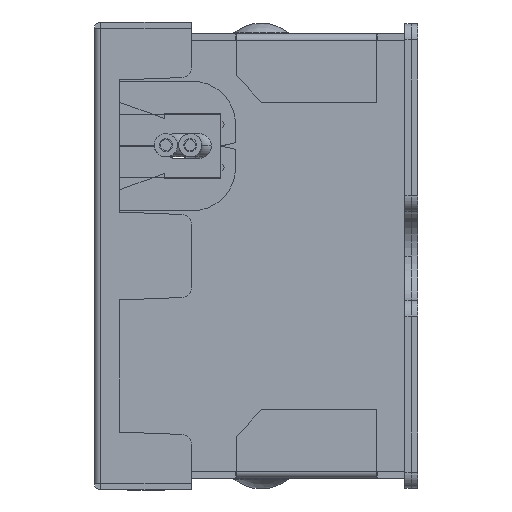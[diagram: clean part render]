
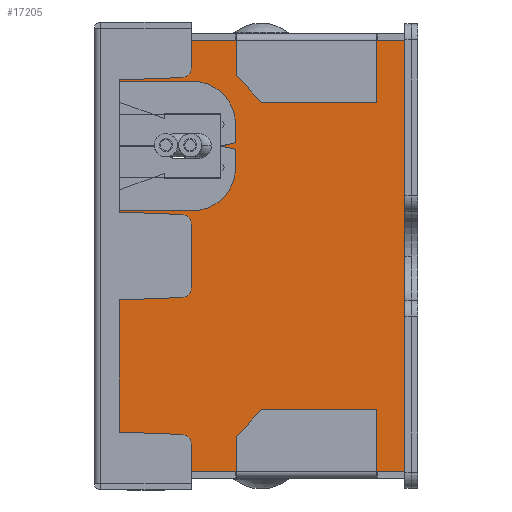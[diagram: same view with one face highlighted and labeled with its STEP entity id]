
A CAD part, left-side view. The second image highlights one B-rep face of the part: STEP entity #17205.
In plain terms, the highlighted planar face has unit normal (-1, 0, 0) as drawn and (0, 0, 1) by its records, which use the part's own axes.
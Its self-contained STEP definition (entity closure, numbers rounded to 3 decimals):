
#46 = ORIENTED_EDGE ( 'NONE', *, *, #17590, .T. ) ;
#129 = CARTESIAN_POINT ( 'NONE',  ( 13.25, 3.15, 0.6 ) ) ;
#232 = VERTEX_POINT ( 'NONE', #11225 ) ;
#500 = CARTESIAN_POINT ( 'NONE',  ( -20., 13.9, 0.6 ) ) ;
#555 = CARTESIAN_POINT ( 'NONE',  ( -20., 8.4, 0.6 ) ) ;
#981 = DIRECTION ( 'NONE',  ( 0., 1., 0. ) ) ;
#1043 = CARTESIAN_POINT ( 'NONE',  ( -20., 13.9, 0.6 ) ) ;
#1109 = DIRECTION ( 'NONE',  ( 1., 0., 0. ) ) ;
#1242 = EDGE_CURVE ( 'NONE', #5543, #232, #15643, .T. ) ;
#2249 = VERTEX_POINT ( 'NONE', #7799 ) ;
#2369 = EDGE_CURVE ( 'NONE', #6762, #15968, #3909, .T. ) ;
#2485 = EDGE_CURVE ( 'NONE', #15968, #12574, #9845, .T. ) ;
#2486 = ORIENTED_EDGE ( 'NONE', *, *, #10905, .T. ) ;
#2586 = CARTESIAN_POINT ( 'NONE',  ( -20., -13.9, 0.6 ) ) ;
#2604 = ORIENTED_EDGE ( 'NONE', *, *, #3429, .T. ) ;
#2654 = ORIENTED_EDGE ( 'NONE', *, *, #2369, .T. ) ;
#2867 = DIRECTION ( 'NONE',  ( -1., 0., 0. ) ) ;
#2881 = EDGE_CURVE ( 'NONE', #16415, #5543, #5414, .T. ) ;
#2928 = VERTEX_POINT ( 'NONE', #16192 ) ;
#3429 = EDGE_CURVE ( 'NONE', #2928, #11017, #5630, .T. ) ;
#3457 = DIRECTION ( 'NONE',  ( 1., 0., 0. ) ) ;
#3617 = AXIS2_PLACEMENT_3D ( 'NONE', #10995, #16586, #1109 ) ;
#3793 = CARTESIAN_POINT ( 'NONE',  ( 4.598, 13.9, 0.6 ) ) ;
#3909 = CIRCLE ( 'NONE', #3617, 1.5 ) ;
#4358 = ORIENTED_EDGE ( 'NONE', *, *, #7977, .T. ) ;
#4853 = FACE_OUTER_BOUND ( 'NONE', #6237, .T. ) ;
#5084 = VECTOR ( 'NONE', #7776, 1000. ) ;
#5104 = PLANE ( 'NONE',  #6616 ) ;
#5239 = VECTOR ( 'NONE', #981, 1000. ) ;
#5302 = VECTOR ( 'NONE', #13365, 1000. ) ;
#5414 = CIRCLE ( 'NONE', #11763, 1.5 ) ;
#5429 = DIRECTION ( 'NONE',  ( -1., 0., 0. ) ) ;
#5489 = ORIENTED_EDGE ( 'NONE', *, *, #2881, .T. ) ;
#5543 = VERTEX_POINT ( 'NONE', #7845 ) ;
#5630 = LINE ( 'NONE', #14553, #8492 ) ;
#5919 = ORIENTED_EDGE ( 'NONE', *, *, #7323, .T. ) ;
#6017 = CARTESIAN_POINT ( 'NONE',  ( -20., 13.9, 0.6 ) ) ;
#6237 = EDGE_LOOP ( 'NONE', ( #12770, #5489, #6319, #8241, #2604, #2486, #4358, #46, #10582, #2654, #11084, #10202, #5919, #13911 ) ) ;
#6274 = DIRECTION ( 'NONE',  ( 0., -1., 0. ) ) ;
#6319 = ORIENTED_EDGE ( 'NONE', *, *, #1242, .T. ) ;
#6367 = VERTEX_POINT ( 'NONE', #11868 ) ;
#6492 = EDGE_CURVE ( 'NONE', #6367, #16415, #14183, .T. ) ;
#6601 = LINE ( 'NONE', #6611, #13676 ) ;
#6611 = CARTESIAN_POINT ( 'NONE',  ( 11.583, -2.405, 0.6 ) ) ;
#6616 = AXIS2_PLACEMENT_3D ( 'NONE', #14886, #16294, #6882 ) ;
#6710 = EDGE_CURVE ( 'NONE', #232, #2928, #6850, .T. ) ;
#6762 = VERTEX_POINT ( 'NONE', #17755 ) ;
#6819 = LINE ( 'NONE', #8794, #13233 ) ;
#6850 = LINE ( 'NONE', #555, #5302 ) ;
#6882 = DIRECTION ( 'NONE',  ( 1., 0., 0. ) ) ;
#6960 = CARTESIAN_POINT ( 'NONE',  ( 1.752, -21.817, 0.6 ) ) ;
#7323 = EDGE_CURVE ( 'NONE', #17318, #8099, #16372, .T. ) ;
#7491 = CARTESIAN_POINT ( 'NONE',  ( -20., 8.4, 0.6 ) ) ;
#7760 = VECTOR ( 'NONE', #12866, 1000. ) ;
#7776 = DIRECTION ( 'NONE',  ( 1., 0., 0. ) ) ;
#7799 = CARTESIAN_POINT ( 'NONE',  ( 7.65, 8.4, 0.6 ) ) ;
#7845 = CARTESIAN_POINT ( 'NONE',  ( 14.393, 12.913, 0.6 ) ) ;
#7894 = DIRECTION ( 'NONE',  ( -0.342, 0.94, 0. ) ) ;
#7977 = EDGE_CURVE ( 'NONE', #15218, #9995, #6819, .T. ) ;
#8099 = VERTEX_POINT ( 'NONE', #12064 ) ;
#8241 = ORIENTED_EDGE ( 'NONE', *, *, #6710, .T. ) ;
#8280 = LINE ( 'NONE', #16836, #11594 ) ;
#8304 = LINE ( 'NONE', #6017, #9179 ) ;
#8492 = VECTOR ( 'NONE', #6274, 1000. ) ;
#8794 = CARTESIAN_POINT ( 'NONE',  ( 7.15, -13.9, 0.6 ) ) ;
#9179 = VECTOR ( 'NONE', #10313, 1000. ) ;
#9366 = EDGE_CURVE ( 'NONE', #2249, #6762, #6601, .T. ) ;
#9433 = VECTOR ( 'NONE', #16873, 1000. ) ;
#9751 = CARTESIAN_POINT ( 'NONE',  ( -20., 13.9, 0.6 ) ) ;
#9845 = LINE ( 'NONE', #9751, #14299 ) ;
#9995 = VERTEX_POINT ( 'NONE', #15148 ) ;
#10124 = VECTOR ( 'NONE', #10141, 1000. ) ;
#10141 = DIRECTION ( 'NONE',  ( 1., 0., 0. ) ) ;
#10202 = ORIENTED_EDGE ( 'NONE', *, *, #15344, .T. ) ;
#10313 = DIRECTION ( 'NONE',  ( 0., -1., 0. ) ) ;
#10344 = DIRECTION ( 'NONE',  ( 0., 1., 0. ) ) ;
#10444 = CARTESIAN_POINT ( 'NONE',  ( 15.802, 13.9, 0.6 ) ) ;
#10582 = ORIENTED_EDGE ( 'NONE', *, *, #9366, .T. ) ;
#10618 = DIRECTION ( 'NONE',  ( 0., 0., 1. ) ) ;
#10775 = LINE ( 'NONE', #16391, #5239 ) ;
#10905 = EDGE_CURVE ( 'NONE', #11017, #15218, #8280, .T. ) ;
#10995 = CARTESIAN_POINT ( 'NONE',  ( 4.598, 12.4, 0.6 ) ) ;
#11017 = VERTEX_POINT ( 'NONE', #129 ) ;
#11023 = LINE ( 'NONE', #7491, #10124 ) ;
#11084 = ORIENTED_EDGE ( 'NONE', *, *, #2485, .T. ) ;
#11225 = CARTESIAN_POINT ( 'NONE',  ( 12.75, 8.4, 0.6 ) ) ;
#11594 = VECTOR ( 'NONE', #2867, 1000. ) ;
#11763 = AXIS2_PLACEMENT_3D ( 'NONE', #12085, #10618, #3457 ) ;
#11868 = CARTESIAN_POINT ( 'NONE',  ( 20., 13.9, 0.6 ) ) ;
#12064 = CARTESIAN_POINT ( 'NONE',  ( 20., -13.9, 0.6 ) ) ;
#12085 = CARTESIAN_POINT ( 'NONE',  ( 15.802, 12.4, 0.6 ) ) ;
#12562 = CARTESIAN_POINT ( 'NONE',  ( 7.15, 3.15, 0.6 ) ) ;
#12574 = VERTEX_POINT ( 'NONE', #1043 ) ;
#12770 = ORIENTED_EDGE ( 'NONE', *, *, #6492, .T. ) ;
#12866 = DIRECTION ( 'NONE',  ( -1., 0., 0. ) ) ;
#13233 = VECTOR ( 'NONE', #10344, 1000. ) ;
#13282 = CARTESIAN_POINT ( 'NONE',  ( -20., -13.9, 0.6 ) ) ;
#13365 = DIRECTION ( 'NONE',  ( 1., 0., 0. ) ) ;
#13676 = VECTOR ( 'NONE', #7894, 1000. ) ;
#13911 = ORIENTED_EDGE ( 'NONE', *, *, #18278, .T. ) ;
#14183 = LINE ( 'NONE', #500, #7760 ) ;
#14299 = VECTOR ( 'NONE', #5429, 1000. ) ;
#14553 = CARTESIAN_POINT ( 'NONE',  ( 13.25, -13.9, 0.6 ) ) ;
#14886 = CARTESIAN_POINT ( 'NONE',  ( -20., -13.9, 0.6 ) ) ;
#15148 = CARTESIAN_POINT ( 'NONE',  ( 7.15, 8.4, 0.6 ) ) ;
#15218 = VERTEX_POINT ( 'NONE', #12562 ) ;
#15344 = EDGE_CURVE ( 'NONE', #12574, #17318, #8304, .T. ) ;
#15643 = LINE ( 'NONE', #6960, #9433 ) ;
#15968 = VERTEX_POINT ( 'NONE', #3793 ) ;
#16192 = CARTESIAN_POINT ( 'NONE',  ( 13.25, 8.4, 0.6 ) ) ;
#16294 = DIRECTION ( 'NONE',  ( 0., 0., 1. ) ) ;
#16372 = LINE ( 'NONE', #13282, #5084 ) ;
#16391 = CARTESIAN_POINT ( 'NONE',  ( 20., 13.9, 0.6 ) ) ;
#16415 = VERTEX_POINT ( 'NONE', #10444 ) ;
#16586 = DIRECTION ( 'NONE',  ( 0., 0., 1. ) ) ;
#16836 = CARTESIAN_POINT ( 'NONE',  ( -20., 3.15, 0.6 ) ) ;
#16873 = DIRECTION ( 'NONE',  ( -0.342, -0.94, 0. ) ) ;
#17205 = ADVANCED_FACE ( 'NONE', ( #4853 ), #5104, .T. ) ;
#17318 = VERTEX_POINT ( 'NONE', #2586 ) ;
#17590 = EDGE_CURVE ( 'NONE', #9995, #2249, #11023, .T. ) ;
#17755 = CARTESIAN_POINT ( 'NONE',  ( 6.007, 12.913, 0.6 ) ) ;
#18278 = EDGE_CURVE ( 'NONE', #8099, #6367, #10775, .T. ) ;
